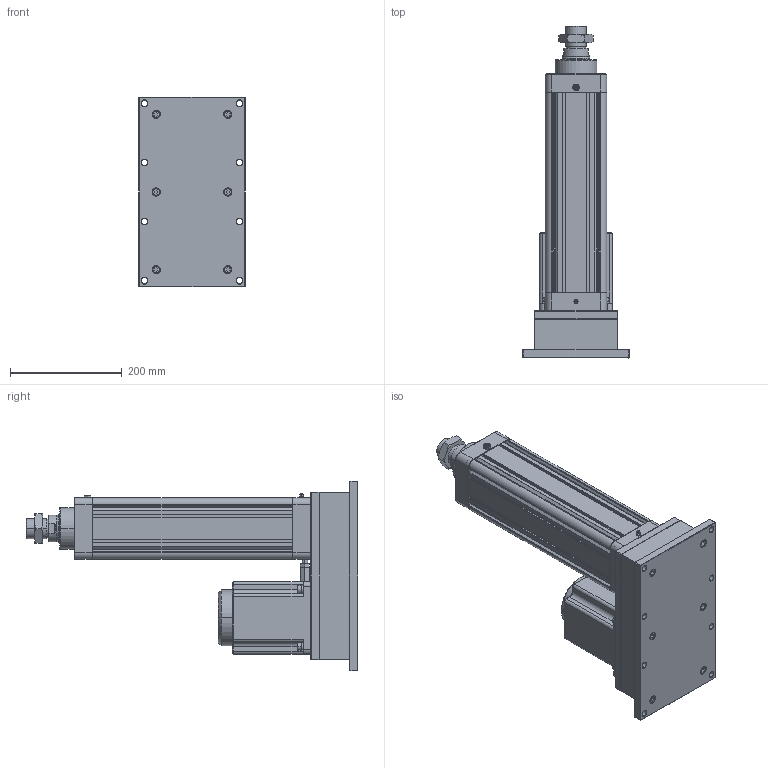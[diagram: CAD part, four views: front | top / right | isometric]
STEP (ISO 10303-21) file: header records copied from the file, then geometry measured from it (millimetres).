
FILE_DESCRIPTION((''),'2;1');
FILE_NAME('HE100-D-P_ASM','2020-04-21T',('ASUS20200'),(''),'CREO PARAMETRIC BY PTC INC, 2014190','CREO PARAMETRIC BY PTC INC, 2014190','');
FILE_SCHEMA(('CONFIG_CONTROL_DESIGN'));
Length unit declared in the file: millimetre
Products named in the file (23): HE100-D-P-001-X1; HE100-D-P-002-X1; HE100-D-P-003-X1; JDB506030; SLM-01; YZ-M6X1; HE100-100-D-P-X1_ASM; HE100-P-010-X1-130N; 130ST-M10010; HE100-P-009-X1-130N; HE100-P-013-X1-130N; TD-8; M8X35; M8X75; LM-M8-7-5; M10X1-25-40; LM-M10-30; LM-M10; HE100-D-P-005-X1; HE100-D-P-004-X1; HE80-D-P-008-X1; LGLM-M10-25; HE100-D-P_ASM
Assembly tree (39 placements, depth 3):
  HE100-D-P_ASM
    HE100-100-D-P-X1_ASM
      HE100-D-P-001-X1
      HE100-D-P-002-X1
      HE100-D-P-003-X1
      JDB506030
      SLM-01
      YZ-M6X1
    HE100-P-010-X1-130N
    130ST-M10010
    HE100-P-009-X1-130N
    HE100-P-013-X1-130N
    TD-8  x4
    M8X35  x4
    M8X75  x6
    LM-M8-7-5  x4
    M10X1-25-40
    LM-M10-30
    LM-M10
    HE100-D-P-005-X1
    HE100-D-P-004-X1
    HE80-D-P-008-X1
    LGLM-M10-25  x4
Bounding box: 190 x 594 x 340 mm (x, y, z)
Volume: 6330930 mm3; surface area: 1191400.7 mm2
Topology: 38 solids, 68 shells, 2334 faces, 5436 edges, 3235 vertices
Faces by surface type: plane 868, cone 770, cylinder 600, torus 66, sphere 26, bspline 4
Entity records: 56253 total; most frequent: CARTESIAN_POINT 10932, DIRECTION 9895, ORIENTED_EDGE 8862, EDGE_CURVE 4482, AXIS2_PLACEMENT_3D 3729, VERTEX_POINT 2670, VECTOR 2437, LINE 2437
